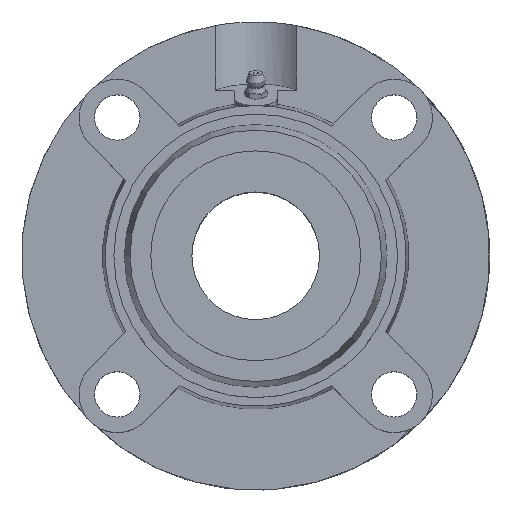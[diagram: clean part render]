
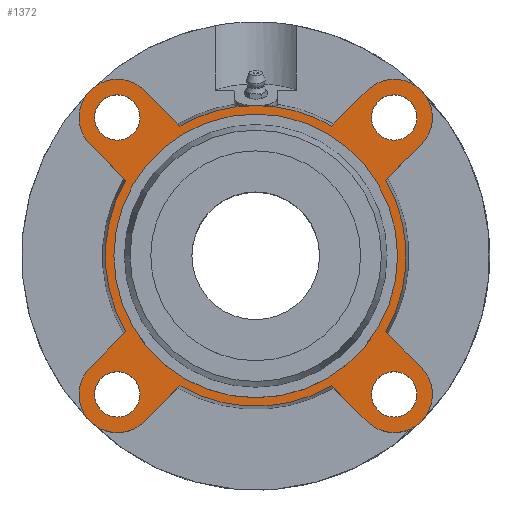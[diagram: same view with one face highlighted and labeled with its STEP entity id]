
A CAD part, top view. The second image highlights one B-rep face of the part: STEP entity #1372.
In plain terms, the highlighted planar face has unit normal (0, 0, 1).
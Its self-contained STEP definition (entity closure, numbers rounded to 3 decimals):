
#112=CARTESIAN_POINT('',(0.0,50.0,15.));
#113=VERTEX_POINT('',#112);
#114=CARTESIAN_POINT('',(0.0,0.,15.));
#115=DIRECTION('',(0.0,0.0,-1.0));
#116=DIRECTION('',(0.0,1.0,0.0));
#117=AXIS2_PLACEMENT_3D('',#114,#115,#116);
#118=CIRCLE('',#117,50.0);
#119=EDGE_CURVE('',#113,#113,#118,.T.);
#209=CARTESIAN_POINT('',(-40.79,-48.79,15.));
#210=VERTEX_POINT('',#209);
#211=CARTESIAN_POINT('',(-48.79,-48.79,15.0));
#212=DIRECTION('',(0.0,0.0,-1.0));
#213=DIRECTION('',(1.0,0.0,0.0));
#214=AXIS2_PLACEMENT_3D('',#211,#212,#213);
#215=CIRCLE('',#214,8.0);
#216=EDGE_CURVE('',#210,#210,#215,.T.);
#237=CARTESIAN_POINT('',(-40.79,48.79,15.));
#238=VERTEX_POINT('',#237);
#239=CARTESIAN_POINT('',(-48.79,48.79,15.));
#240=DIRECTION('',(0.0,0.0,-1.0));
#241=DIRECTION('',(1.0,0.0,0.0));
#242=AXIS2_PLACEMENT_3D('',#239,#240,#241);
#243=CIRCLE('',#242,8.0);
#244=EDGE_CURVE('',#238,#238,#243,.T.);
#265=CARTESIAN_POINT('',(56.79,48.79,15.));
#266=VERTEX_POINT('',#265);
#267=CARTESIAN_POINT('',(48.79,48.79,15.));
#268=DIRECTION('',(0.0,0.0,-1.0));
#269=DIRECTION('',(1.0,0.0,0.0));
#270=AXIS2_PLACEMENT_3D('',#267,#268,#269);
#271=CIRCLE('',#270,8.0);
#272=EDGE_CURVE('',#266,#266,#271,.T.);
#293=CARTESIAN_POINT('',(56.79,-48.79,15.));
#294=VERTEX_POINT('',#293);
#295=CARTESIAN_POINT('',(48.79,-48.79,15.0));
#296=DIRECTION('',(0.0,0.0,-1.0));
#297=DIRECTION('',(1.0,0.0,0.0));
#298=AXIS2_PLACEMENT_3D('',#295,#296,#297);
#299=CIRCLE('',#298,8.0);
#300=EDGE_CURVE('',#294,#294,#299,.T.);
#670=CARTESIAN_POINT('',(0.,53.,15.));
#671=VERTEX_POINT('',#670);
#828=CARTESIAN_POINT('',(-26.695,45.786,15.));
#829=VERTEX_POINT('',#828);
#843=CARTESIAN_POINT('',(0.0,0.,15.));
#844=DIRECTION('',(0.0,0.0,1.0));
#845=DIRECTION('',(0.0,-1.0,0.0));
#846=AXIS2_PLACEMENT_3D('',#843,#844,#845);
#847=CIRCLE('',#846,53.);
#848=EDGE_CURVE('',#671,#829,#847,.T.);
#858=CARTESIAN_POINT('',(-26.695,-45.786,15.));
#859=VERTEX_POINT('',#858);
#875=CARTESIAN_POINT('',(-39.244,-58.336,15.));
#876=VERTEX_POINT('',#875);
#877=CARTESIAN_POINT('',(-26.695,-45.786,15.));
#878=DIRECTION('',(-0.707,-0.707,0.));
#879=VECTOR('',#878,17.748);
#880=LINE('',#877,#879);
#881=EDGE_CURVE('',#859,#876,#880,.T.);
#905=CARTESIAN_POINT('',(-45.786,26.695,15.));
#906=VERTEX_POINT('',#905);
#922=CARTESIAN_POINT('',(-58.336,39.244,15.));
#923=VERTEX_POINT('',#922);
#924=CARTESIAN_POINT('',(-45.786,26.695,15.));
#925=DIRECTION('',(-0.707,0.707,0.));
#926=VECTOR('',#925,17.748);
#927=LINE('',#924,#926);
#928=EDGE_CURVE('',#906,#923,#927,.T.);
#952=CARTESIAN_POINT('',(45.786,-26.695,15.));
#953=VERTEX_POINT('',#952);
#969=CARTESIAN_POINT('',(58.336,-39.244,15.));
#970=VERTEX_POINT('',#969);
#971=CARTESIAN_POINT('',(45.786,-26.695,15.));
#972=DIRECTION('',(0.707,-0.707,0.));
#973=VECTOR('',#972,17.748);
#974=LINE('',#971,#973);
#975=EDGE_CURVE('',#953,#970,#974,.T.);
#999=CARTESIAN_POINT('',(26.695,45.786,15.));
#1000=VERTEX_POINT('',#999);
#1014=CARTESIAN_POINT('',(39.244,58.336,15.));
#1015=VERTEX_POINT('',#1014);
#1016=CARTESIAN_POINT('',(26.695,45.786,15.));
#1017=DIRECTION('',(0.707,0.707,0.));
#1018=VECTOR('',#1017,17.748);
#1019=LINE('',#1016,#1018);
#1020=EDGE_CURVE('',#1000,#1015,#1019,.T.);
#1039=CARTESIAN_POINT('',(45.786,26.695,15.));
#1040=VERTEX_POINT('',#1039);
#1062=CARTESIAN_POINT('',(58.336,39.244,15.));
#1063=VERTEX_POINT('',#1062);
#1070=CARTESIAN_POINT('',(58.336,39.244,15.));
#1071=DIRECTION('',(-0.707,-0.707,0.));
#1072=VECTOR('',#1071,17.748);
#1073=LINE('',#1070,#1072);
#1074=EDGE_CURVE('',#1063,#1040,#1073,.T.);
#1084=CARTESIAN_POINT('',(-58.336,-39.244,15.));
#1085=VERTEX_POINT('',#1084);
#1086=CARTESIAN_POINT('',(-48.79,-48.79,15.));
#1087=DIRECTION('',(0.0,0.0,-1.0));
#1088=DIRECTION('',(-0.707,0.707,0.0));
#1089=AXIS2_PLACEMENT_3D('',#1086,#1087,#1088);
#1090=CIRCLE('',#1089,13.5);
#1091=EDGE_CURVE('',#876,#1085,#1090,.T.);
#1126=CARTESIAN_POINT('',(-45.786,-26.695,15.));
#1127=VERTEX_POINT('',#1126);
#1148=CARTESIAN_POINT('',(-58.336,-39.244,15.));
#1149=DIRECTION('',(0.707,0.707,0.));
#1150=VECTOR('',#1149,17.748);
#1151=LINE('',#1148,#1150);
#1152=EDGE_CURVE('',#1085,#1127,#1151,.T.);
#1162=CARTESIAN_POINT('',(-39.244,58.336,15.));
#1163=VERTEX_POINT('',#1162);
#1164=CARTESIAN_POINT('',(-48.79,48.79,15.));
#1165=DIRECTION('',(0.0,0.0,-1.0));
#1166=DIRECTION('',(0.707,0.707,0.0));
#1167=AXIS2_PLACEMENT_3D('',#1164,#1165,#1166);
#1168=CIRCLE('',#1167,13.5);
#1169=EDGE_CURVE('',#923,#1163,#1168,.T.);
#1197=CARTESIAN_POINT('',(-39.244,58.336,15.));
#1198=DIRECTION('',(0.707,-0.707,0.));
#1199=VECTOR('',#1198,17.748);
#1200=LINE('',#1197,#1199);
#1201=EDGE_CURVE('',#1163,#829,#1200,.T.);
#1211=CARTESIAN_POINT('',(39.244,-58.336,15.));
#1212=VERTEX_POINT('',#1211);
#1213=CARTESIAN_POINT('',(48.79,-48.79,15.));
#1214=DIRECTION('',(0.0,0.0,-1.0));
#1215=DIRECTION('',(-0.707,-0.707,0.0));
#1216=AXIS2_PLACEMENT_3D('',#1213,#1214,#1215);
#1217=CIRCLE('',#1216,13.5);
#1218=EDGE_CURVE('',#970,#1212,#1217,.T.);
#1253=CARTESIAN_POINT('',(26.695,-45.786,15.));
#1254=VERTEX_POINT('',#1253);
#1275=CARTESIAN_POINT('',(39.244,-58.336,15.));
#1276=DIRECTION('',(-0.707,0.707,0.));
#1277=VECTOR('',#1276,17.748);
#1278=LINE('',#1275,#1277);
#1279=EDGE_CURVE('',#1212,#1254,#1278,.T.);
#1289=CARTESIAN_POINT('',(48.79,48.79,15.));
#1290=DIRECTION('',(0.0,0.0,-1.0));
#1291=DIRECTION('',(0.707,-0.707,0.0));
#1292=AXIS2_PLACEMENT_3D('',#1289,#1290,#1291);
#1293=CIRCLE('',#1292,13.5);
#1294=EDGE_CURVE('',#1015,#1063,#1293,.T.);
#1309=CARTESIAN_POINT('',(0.0,-26.5,15.));
#1310=DIRECTION('',(0.0,0.0,1.0));
#1311=DIRECTION('',(1.0,0.0,0.0));
#1312=AXIS2_PLACEMENT_3D('',#1309,#1310,#1311);
#1313=PLANE('',#1312);
#1314=CARTESIAN_POINT('',(0.0,0.,15.));
#1315=DIRECTION('',(0.0,0.0,1.0));
#1316=DIRECTION('',(0.0,-1.0,0.0));
#1317=AXIS2_PLACEMENT_3D('',#1314,#1315,#1316);
#1318=CIRCLE('',#1317,53.);
#1319=EDGE_CURVE('',#859,#1254,#1318,.T.);
#1320=ORIENTED_EDGE('',*,*,#1319,.T.);
#1321=ORIENTED_EDGE('',*,*,#1279,.F.);
#1322=ORIENTED_EDGE('',*,*,#1218,.F.);
#1323=ORIENTED_EDGE('',*,*,#975,.F.);
#1324=CARTESIAN_POINT('',(0.0,0.,15.));
#1325=DIRECTION('',(0.0,0.0,1.0));
#1326=DIRECTION('',(0.0,-1.0,0.0));
#1327=AXIS2_PLACEMENT_3D('',#1324,#1325,#1326);
#1328=CIRCLE('',#1327,53.);
#1329=EDGE_CURVE('',#953,#1040,#1328,.T.);
#1330=ORIENTED_EDGE('',*,*,#1329,.T.);
#1331=ORIENTED_EDGE('',*,*,#1074,.F.);
#1332=ORIENTED_EDGE('',*,*,#1294,.F.);
#1333=ORIENTED_EDGE('',*,*,#1020,.F.);
#1334=CARTESIAN_POINT('',(0.0,0.,15.));
#1335=DIRECTION('',(0.0,0.0,1.0));
#1336=DIRECTION('',(0.0,-1.0,0.0));
#1337=AXIS2_PLACEMENT_3D('',#1334,#1335,#1336);
#1338=CIRCLE('',#1337,53.);
#1339=EDGE_CURVE('',#1000,#671,#1338,.T.);
#1340=ORIENTED_EDGE('',*,*,#1339,.T.);
#1341=ORIENTED_EDGE('',*,*,#848,.T.);
#1342=ORIENTED_EDGE('',*,*,#1201,.F.);
#1343=ORIENTED_EDGE('',*,*,#1169,.F.);
#1344=ORIENTED_EDGE('',*,*,#928,.F.);
#1345=CARTESIAN_POINT('',(0.0,0.,15.));
#1346=DIRECTION('',(0.0,0.0,1.0));
#1347=DIRECTION('',(0.0,-1.0,0.0));
#1348=AXIS2_PLACEMENT_3D('',#1345,#1346,#1347);
#1349=CIRCLE('',#1348,53.);
#1350=EDGE_CURVE('',#906,#1127,#1349,.T.);
#1351=ORIENTED_EDGE('',*,*,#1350,.T.);
#1352=ORIENTED_EDGE('',*,*,#1152,.F.);
#1353=ORIENTED_EDGE('',*,*,#1091,.F.);
#1354=ORIENTED_EDGE('',*,*,#881,.F.);
#1355=EDGE_LOOP('',(#1320,#1321,#1322,#1323,#1330,#1331,#1332,#1333,#1340,#1341,#1342,#1343,#1344,#1351,#1352,#1353,#1354));
#1356=FACE_OUTER_BOUND('',#1355,.T.);
#1357=ORIENTED_EDGE('',*,*,#119,.T.);
#1358=EDGE_LOOP('',(#1357));
#1359=FACE_BOUND('',#1358,.T.);
#1360=ORIENTED_EDGE('',*,*,#216,.T.);
#1361=EDGE_LOOP('',(#1360));
#1362=FACE_BOUND('',#1361,.T.);
#1363=ORIENTED_EDGE('',*,*,#244,.T.);
#1364=EDGE_LOOP('',(#1363));
#1365=FACE_BOUND('',#1364,.T.);
#1366=ORIENTED_EDGE('',*,*,#272,.T.);
#1367=EDGE_LOOP('',(#1366));
#1368=FACE_BOUND('',#1367,.T.);
#1369=ORIENTED_EDGE('',*,*,#300,.T.);
#1370=EDGE_LOOP('',(#1369));
#1371=FACE_BOUND('',#1370,.T.);
#1372=ADVANCED_FACE('',(#1356,#1359,#1362,#1365,#1368,#1371),#1313,.T.);
